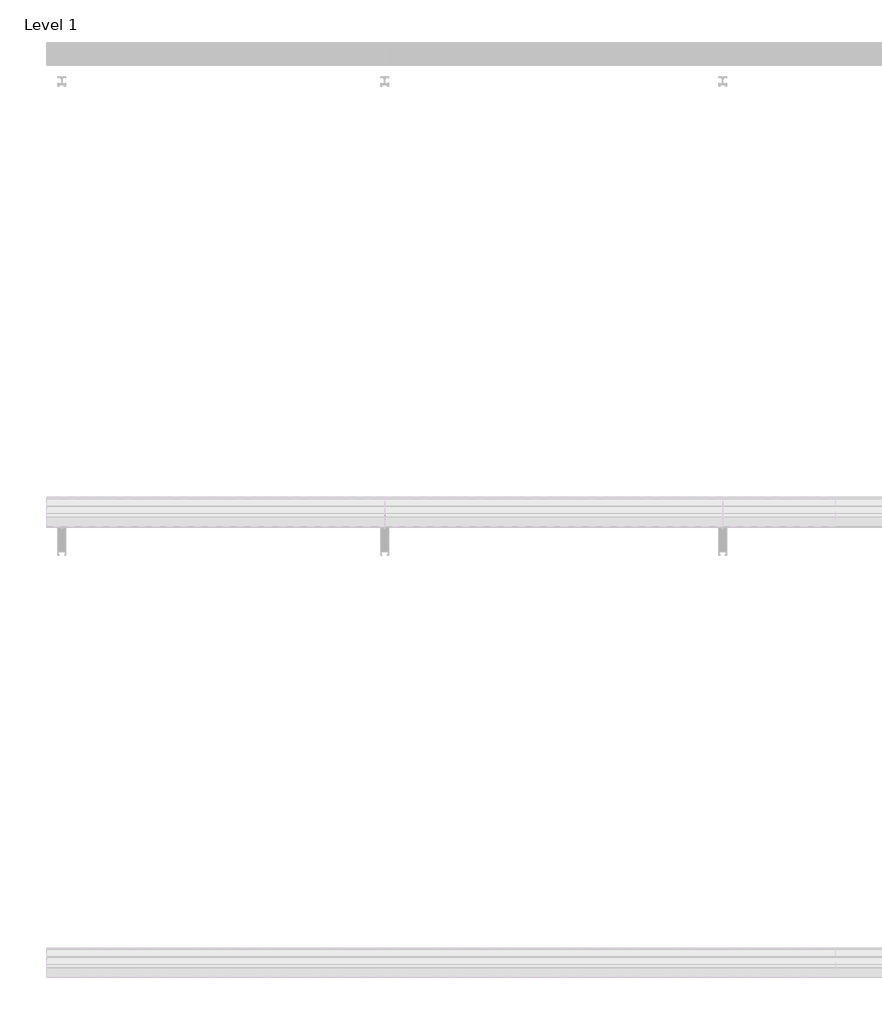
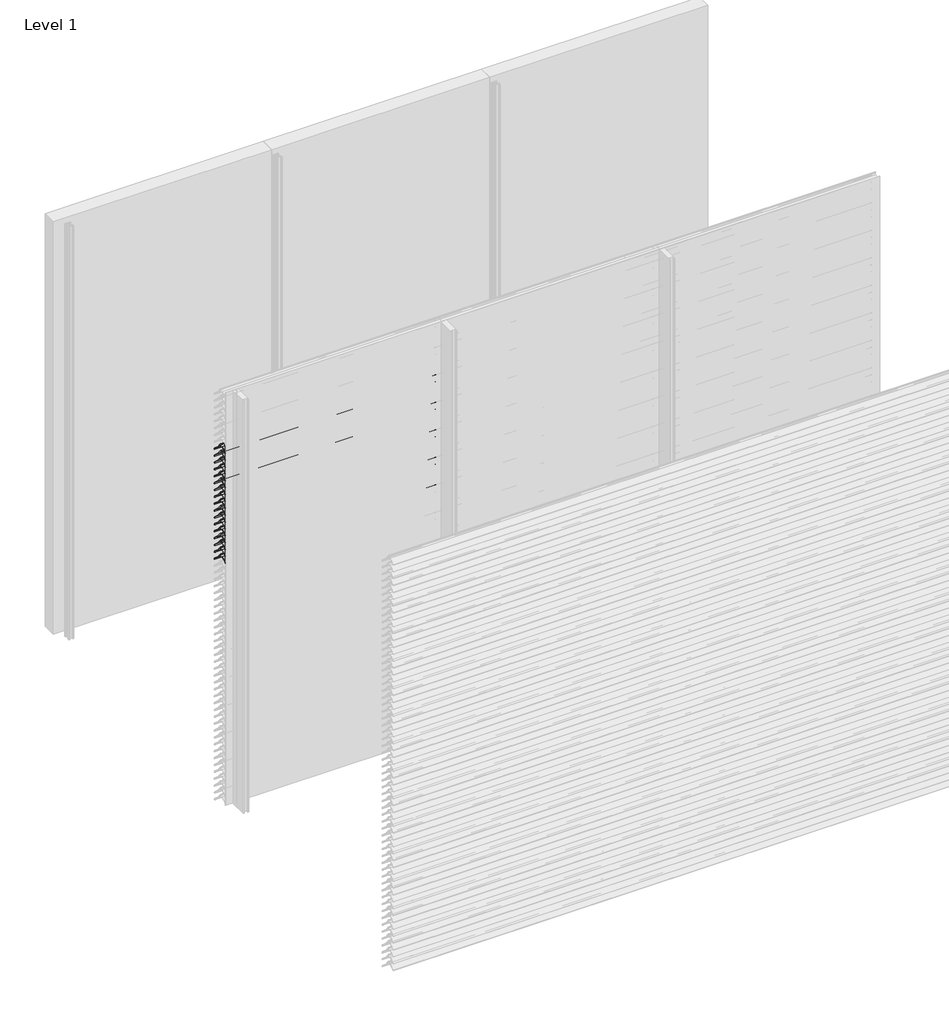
# One storey, part 24 of 173: 17 proxies.
"""IFC4 building model written with IfcOpenShell, lengths in millimetres."""

from ifc_helpers import new_model, si_unit, point, frame, frame_2d, origin, place, context, project, spatial, polyline, circle_curve, trimmed, segment, composite_curve, outline, extrude, element, save

model = new_model("IFC4")

# Units and contexts
model_context = context("Model", 3, world=origin())
ifc_project = project(units=[si_unit("LENGTHUNIT", "METRE", prefix="MILLI")], contexts=[model_context])

# Site, building, storey
site = spatial("IfcSite", under=ifc_project)
building = spatial("IfcBuilding", under=site)
storey = spatial("IfcBuildingStorey", under=building, Name="Level 1", Elevation=0.0)

# Proxies
placement = place(None, origin())
element("IfcBuildingElementProxy", 1, Name="Wall Sweeps", at=placement, inside=storey, context=model_context, shape_type="SweptSolid", body=[
    extrude(outline(composite_curve([segment(polyline([(-47998.0, 2559.1474905), (-47998.0, 2561.6227417)]), True, "CONTINUOUS"), segment(trimmed(circle_curve(frame_2d((-47951.2682172, 2516.2200208)), 65.1557103), [point((-47998.0, 2561.6227417))], [point((-47954.4014323, 2581.3003524))], False, "CARTESIAN"), True, "CONTINUOUS"), segment(polyline([(-47954.4014323, 2581.3003524), (-47934.8315836, 2581.3003524)]), True, "CONTINUOUS"), segment(trimmed(circle_curve(frame_2d((-47732.7329489, 2728.5533172)), 250.0545817), [point((-47934.8315836, 2581.3003524))], [point((-47941.4452143, 2590.8344583))], False, "CARTESIAN"), True, "CONTINUOUS"), segment(trimmed(circle_curve(frame_2d((-47953.2981792, 2585.1737835)), 13.1352966), [point((-47941.4452143, 2590.8344583))], [point((-47953.8171475, 2598.298824))], True, "CARTESIAN"), True, "CONTINUOUS"), segment(polyline([(-47953.8171475, 2598.298824), (-47953.8171475, 2600.0)]), True, "CONTINUOUS"), segment(trimmed(circle_curve(frame_2d((-47953.2981792, 2585.1737835)), 14.8352966), [point((-47953.8171475, 2600.0))], [point((-47939.9637661, 2591.6760487))], False, "CARTESIAN"), True, "CONTINUOUS"), segment(trimmed(circle_curve(frame_2d((-47732.7329489, 2728.5533172)), 248.3545817), [point((-47939.9637661, 2591.6760487))], [point((-47873.8787895, 2524.2059416))], True, "CARTESIAN"), True, "CONTINUOUS"), segment(trimmed(circle_curve(frame_2d((-47883.8147537, 2511.6649442)), 16.0), [point((-47873.8787895, 2524.2059416))], [point((-47867.8648347, 2510.4))], False, "CARTESIAN"), True, "CONTINUOUS"), segment(polyline([(-47867.8648347, 2510.4), (-47869.6712069, 2510.4)]), True, "CONTINUOUS"), segment(trimmed(circle_curve(frame_2d((-47883.8147537, 2511.6649442)), 14.2), [point((-47869.6712069, 2510.4))], [point((-47874.9518628, 2522.7594998))], True, "CARTESIAN"), True, "CONTINUOUS"), segment(trimmed(circle_curve(frame_2d((-47732.7329489, 2728.5533172)), 250.1545817), [point((-47874.9518628, 2522.7594998))], [point((-47933.7064024, 2579.6003524))], False, "CARTESIAN"), True, "CONTINUOUS"), segment(polyline([(-47933.7064024, 2579.6003524), (-47954.3602632, 2579.6003524)]), True, "CONTINUOUS"), segment(trimmed(circle_curve(frame_2d((-47951.2682172, 2516.2200208)), 63.4557103), [point((-47954.3602632, 2579.6003524))], [point((-47998.0, 2559.1474905))], True, "CARTESIAN"), True, "CONTINUOUS")], self_intersect=False)), frame((0.0, 0.0, 0.0), z_axis=(1.0, 0.0, 0.0), x_axis=(0.0, 1.0, 0.0)), (0.0, 0.0, 1.0), 1500.0),
])
element("IfcBuildingElementProxy", 2, Name="Wall Sweeps", at=placement, inside=storey, context=model_context, shape_type="SweptSolid", body=[
    extrude(outline(composite_curve([segment(polyline([(-47998.0, 2509.1474905), (-47998.0, 2511.6227417)]), True, "CONTINUOUS"), segment(trimmed(circle_curve(frame_2d((-47951.2682172, 2466.2200208)), 65.1557103), [point((-47998.0, 2511.6227417))], [point((-47954.4014323, 2531.3003524))], False, "CARTESIAN"), True, "CONTINUOUS"), segment(polyline([(-47954.4014323, 2531.3003524), (-47934.8315836, 2531.3003524)]), True, "CONTINUOUS"), segment(trimmed(circle_curve(frame_2d((-47732.7329489, 2678.5533172)), 250.0545817), [point((-47934.8315836, 2531.3003524))], [point((-47941.4452143, 2540.8344583))], False, "CARTESIAN"), True, "CONTINUOUS"), segment(trimmed(circle_curve(frame_2d((-47953.2981792, 2535.1737835)), 13.1352966), [point((-47941.4452143, 2540.8344583))], [point((-47953.8171475, 2548.298824))], True, "CARTESIAN"), True, "CONTINUOUS"), segment(polyline([(-47953.8171475, 2548.298824), (-47953.8171475, 2550.0)]), True, "CONTINUOUS"), segment(trimmed(circle_curve(frame_2d((-47953.2981792, 2535.1737835)), 14.8352966), [point((-47953.8171475, 2550.0))], [point((-47939.9637661, 2541.6760487))], False, "CARTESIAN"), True, "CONTINUOUS"), segment(trimmed(circle_curve(frame_2d((-47732.7329489, 2678.5533172)), 248.3545817), [point((-47939.9637661, 2541.6760487))], [point((-47873.8787895, 2474.2059416))], True, "CARTESIAN"), True, "CONTINUOUS"), segment(trimmed(circle_curve(frame_2d((-47883.8147537, 2461.6649442)), 16.0), [point((-47873.8787895, 2474.2059416))], [point((-47867.8648347, 2460.4))], False, "CARTESIAN"), True, "CONTINUOUS"), segment(polyline([(-47867.8648347, 2460.4), (-47869.6712069, 2460.4)]), True, "CONTINUOUS"), segment(trimmed(circle_curve(frame_2d((-47883.8147537, 2461.6649442)), 14.2), [point((-47869.6712069, 2460.4))], [point((-47874.9518628, 2472.7594998))], True, "CARTESIAN"), True, "CONTINUOUS"), segment(trimmed(circle_curve(frame_2d((-47732.7329489, 2678.5533172)), 250.1545817), [point((-47874.9518628, 2472.7594998))], [point((-47933.7064024, 2529.6003524))], False, "CARTESIAN"), True, "CONTINUOUS"), segment(polyline([(-47933.7064024, 2529.6003524), (-47954.3602632, 2529.6003524)]), True, "CONTINUOUS"), segment(trimmed(circle_curve(frame_2d((-47951.2682172, 2466.2200208)), 63.4557103), [point((-47954.3602632, 2529.6003524))], [point((-47998.0, 2509.1474905))], True, "CARTESIAN"), True, "CONTINUOUS")], self_intersect=False)), frame((0.0, 0.0, 0.0), z_axis=(1.0, 0.0, 0.0), x_axis=(0.0, 1.0, 0.0)), (0.0, 0.0, 1.0), 1500.0),
])
element("IfcBuildingElementProxy", 3, Name="Wall Sweeps", at=placement, inside=storey, context=model_context, shape_type="SweptSolid", body=[
    extrude(outline(composite_curve([segment(polyline([(-47998.0, 2459.1474905), (-47998.0, 2461.6227417)]), True, "CONTINUOUS"), segment(trimmed(circle_curve(frame_2d((-47951.2682172, 2416.2200208)), 65.1557103), [point((-47998.0, 2461.6227417))], [point((-47954.4014323, 2481.3003524))], False, "CARTESIAN"), True, "CONTINUOUS"), segment(polyline([(-47954.4014323, 2481.3003524), (-47934.8315836, 2481.3003524)]), True, "CONTINUOUS"), segment(trimmed(circle_curve(frame_2d((-47732.7329489, 2628.5533172)), 250.0545817), [point((-47934.8315836, 2481.3003524))], [point((-47941.4452143, 2490.8344583))], False, "CARTESIAN"), True, "CONTINUOUS"), segment(trimmed(circle_curve(frame_2d((-47953.2981792, 2485.1737835)), 13.1352966), [point((-47941.4452143, 2490.8344583))], [point((-47953.8171475, 2498.298824))], True, "CARTESIAN"), True, "CONTINUOUS"), segment(polyline([(-47953.8171475, 2498.298824), (-47953.8171475, 2500.0)]), True, "CONTINUOUS"), segment(trimmed(circle_curve(frame_2d((-47953.2981792, 2485.1737835)), 14.8352966), [point((-47953.8171475, 2500.0))], [point((-47939.9637661, 2491.6760487))], False, "CARTESIAN"), True, "CONTINUOUS"), segment(trimmed(circle_curve(frame_2d((-47732.7329489, 2628.5533172)), 248.3545817), [point((-47939.9637661, 2491.6760487))], [point((-47873.8787895, 2424.2059416))], True, "CARTESIAN"), True, "CONTINUOUS"), segment(trimmed(circle_curve(frame_2d((-47883.8147537, 2411.6649442)), 16.0), [point((-47873.8787895, 2424.2059416))], [point((-47867.8648347, 2410.4))], False, "CARTESIAN"), True, "CONTINUOUS"), segment(polyline([(-47867.8648347, 2410.4), (-47869.6712069, 2410.4)]), True, "CONTINUOUS"), segment(trimmed(circle_curve(frame_2d((-47883.8147537, 2411.6649442)), 14.2), [point((-47869.6712069, 2410.4))], [point((-47874.9518628, 2422.7594998))], True, "CARTESIAN"), True, "CONTINUOUS"), segment(trimmed(circle_curve(frame_2d((-47732.7329489, 2628.5533172)), 250.1545817), [point((-47874.9518628, 2422.7594998))], [point((-47933.7064024, 2479.6003524))], False, "CARTESIAN"), True, "CONTINUOUS"), segment(polyline([(-47933.7064024, 2479.6003524), (-47954.3602632, 2479.6003524)]), True, "CONTINUOUS"), segment(trimmed(circle_curve(frame_2d((-47951.2682172, 2416.2200208)), 63.4557103), [point((-47954.3602632, 2479.6003524))], [point((-47998.0, 2459.1474905))], True, "CARTESIAN"), True, "CONTINUOUS")], self_intersect=False)), frame((0.0, 0.0, 0.0), z_axis=(1.0, 0.0, 0.0), x_axis=(0.0, 1.0, 0.0)), (0.0, 0.0, 1.0), 1500.0),
])
element("IfcBuildingElementProxy", 4, Name="Wall Sweeps", at=placement, inside=storey, context=model_context, shape_type="SweptSolid", body=[
    extrude(outline(composite_curve([segment(polyline([(-47998.0, 2409.1474905), (-47998.0, 2411.6227417)]), True, "CONTINUOUS"), segment(trimmed(circle_curve(frame_2d((-47951.2682172, 2366.2200208)), 65.1557103), [point((-47998.0, 2411.6227417))], [point((-47954.4014323, 2431.3003524))], False, "CARTESIAN"), True, "CONTINUOUS"), segment(polyline([(-47954.4014323, 2431.3003524), (-47934.8315836, 2431.3003524)]), True, "CONTINUOUS"), segment(trimmed(circle_curve(frame_2d((-47732.7329489, 2578.5533172)), 250.0545817), [point((-47934.8315836, 2431.3003524))], [point((-47941.4452143, 2440.8344583))], False, "CARTESIAN"), True, "CONTINUOUS"), segment(trimmed(circle_curve(frame_2d((-47953.2981792, 2435.1737835)), 13.1352966), [point((-47941.4452143, 2440.8344583))], [point((-47953.8171475, 2448.298824))], True, "CARTESIAN"), True, "CONTINUOUS"), segment(polyline([(-47953.8171475, 2448.298824), (-47953.8171475, 2450.0)]), True, "CONTINUOUS"), segment(trimmed(circle_curve(frame_2d((-47953.2981792, 2435.1737835)), 14.8352966), [point((-47953.8171475, 2450.0))], [point((-47939.9637661, 2441.6760487))], False, "CARTESIAN"), True, "CONTINUOUS"), segment(trimmed(circle_curve(frame_2d((-47732.7329489, 2578.5533172)), 248.3545817), [point((-47939.9637661, 2441.6760487))], [point((-47873.8787895, 2374.2059416))], True, "CARTESIAN"), True, "CONTINUOUS"), segment(trimmed(circle_curve(frame_2d((-47883.8147537, 2361.6649442)), 16.0), [point((-47873.8787895, 2374.2059416))], [point((-47867.8648347, 2360.4))], False, "CARTESIAN"), True, "CONTINUOUS"), segment(polyline([(-47867.8648347, 2360.4), (-47869.6712069, 2360.4)]), True, "CONTINUOUS"), segment(trimmed(circle_curve(frame_2d((-47883.8147537, 2361.6649442)), 14.2), [point((-47869.6712069, 2360.4))], [point((-47874.9518628, 2372.7594998))], True, "CARTESIAN"), True, "CONTINUOUS"), segment(trimmed(circle_curve(frame_2d((-47732.7329489, 2578.5533172)), 250.1545817), [point((-47874.9518628, 2372.7594998))], [point((-47933.7064024, 2429.6003524))], False, "CARTESIAN"), True, "CONTINUOUS"), segment(polyline([(-47933.7064024, 2429.6003524), (-47954.3602632, 2429.6003524)]), True, "CONTINUOUS"), segment(trimmed(circle_curve(frame_2d((-47951.2682172, 2366.2200208)), 63.4557103), [point((-47954.3602632, 2429.6003524))], [point((-47998.0, 2409.1474905))], True, "CARTESIAN"), True, "CONTINUOUS")], self_intersect=False)), frame((0.0, 0.0, 0.0), z_axis=(1.0, 0.0, 0.0), x_axis=(0.0, 1.0, 0.0)), (0.0, 0.0, 1.0), 1500.0),
])
element("IfcBuildingElementProxy", 5, Name="Wall Sweeps", at=placement, inside=storey, context=model_context, shape_type="SweptSolid", body=[
    extrude(outline(composite_curve([segment(polyline([(-47998.0, 2359.1474905), (-47998.0, 2361.6227417)]), True, "CONTINUOUS"), segment(trimmed(circle_curve(frame_2d((-47951.2682172, 2316.2200208)), 65.1557103), [point((-47998.0, 2361.6227417))], [point((-47954.4014323, 2381.3003524))], False, "CARTESIAN"), True, "CONTINUOUS"), segment(polyline([(-47954.4014323, 2381.3003524), (-47934.8315836, 2381.3003524)]), True, "CONTINUOUS"), segment(trimmed(circle_curve(frame_2d((-47732.7329489, 2528.5533172)), 250.0545817), [point((-47934.8315836, 2381.3003524))], [point((-47941.4452143, 2390.8344583))], False, "CARTESIAN"), True, "CONTINUOUS"), segment(trimmed(circle_curve(frame_2d((-47953.2981792, 2385.1737835)), 13.1352966), [point((-47941.4452143, 2390.8344583))], [point((-47953.8171475, 2398.298824))], True, "CARTESIAN"), True, "CONTINUOUS"), segment(polyline([(-47953.8171475, 2398.298824), (-47953.8171475, 2400.0)]), True, "CONTINUOUS"), segment(trimmed(circle_curve(frame_2d((-47953.2981792, 2385.1737835)), 14.8352966), [point((-47953.8171475, 2400.0))], [point((-47939.9637661, 2391.6760487))], False, "CARTESIAN"), True, "CONTINUOUS"), segment(trimmed(circle_curve(frame_2d((-47732.7329489, 2528.5533172)), 248.3545817), [point((-47939.9637661, 2391.6760487))], [point((-47873.8787895, 2324.2059416))], True, "CARTESIAN"), True, "CONTINUOUS"), segment(trimmed(circle_curve(frame_2d((-47883.8147537, 2311.6649442)), 16.0), [point((-47873.8787895, 2324.2059416))], [point((-47867.8648347, 2310.4))], False, "CARTESIAN"), True, "CONTINUOUS"), segment(polyline([(-47867.8648347, 2310.4), (-47869.6712069, 2310.4)]), True, "CONTINUOUS"), segment(trimmed(circle_curve(frame_2d((-47883.8147537, 2311.6649442)), 14.2), [point((-47869.6712069, 2310.4))], [point((-47874.9518628, 2322.7594998))], True, "CARTESIAN"), True, "CONTINUOUS"), segment(trimmed(circle_curve(frame_2d((-47732.7329489, 2528.5533172)), 250.1545817), [point((-47874.9518628, 2322.7594998))], [point((-47933.7064024, 2379.6003524))], False, "CARTESIAN"), True, "CONTINUOUS"), segment(polyline([(-47933.7064024, 2379.6003524), (-47954.3602632, 2379.6003524)]), True, "CONTINUOUS"), segment(trimmed(circle_curve(frame_2d((-47951.2682172, 2316.2200208)), 63.4557103), [point((-47954.3602632, 2379.6003524))], [point((-47998.0, 2359.1474905))], True, "CARTESIAN"), True, "CONTINUOUS")], self_intersect=False)), frame((0.0, 0.0, 0.0), z_axis=(1.0, 0.0, 0.0), x_axis=(0.0, 1.0, 0.0)), (0.0, 0.0, 1.0), 1500.0),
])
element("IfcBuildingElementProxy", 6, Name="Wall Sweeps", at=placement, inside=storey, context=model_context, shape_type="SweptSolid", body=[
    extrude(outline(composite_curve([segment(polyline([(-47998.0, 2309.1474905), (-47998.0, 2311.6227417)]), True, "CONTINUOUS"), segment(trimmed(circle_curve(frame_2d((-47951.2682172, 2266.2200208)), 65.1557103), [point((-47998.0, 2311.6227417))], [point((-47954.4014323, 2331.3003524))], False, "CARTESIAN"), True, "CONTINUOUS"), segment(polyline([(-47954.4014323, 2331.3003524), (-47934.8315836, 2331.3003524)]), True, "CONTINUOUS"), segment(trimmed(circle_curve(frame_2d((-47732.7329489, 2478.5533172)), 250.0545817), [point((-47934.8315836, 2331.3003524))], [point((-47941.4452143, 2340.8344583))], False, "CARTESIAN"), True, "CONTINUOUS"), segment(trimmed(circle_curve(frame_2d((-47953.2981792, 2335.1737835)), 13.1352966), [point((-47941.4452143, 2340.8344583))], [point((-47953.8171475, 2348.298824))], True, "CARTESIAN"), True, "CONTINUOUS"), segment(polyline([(-47953.8171475, 2348.298824), (-47953.8171475, 2350.0)]), True, "CONTINUOUS"), segment(trimmed(circle_curve(frame_2d((-47953.2981792, 2335.1737835)), 14.8352966), [point((-47953.8171475, 2350.0))], [point((-47939.9637661, 2341.6760487))], False, "CARTESIAN"), True, "CONTINUOUS"), segment(trimmed(circle_curve(frame_2d((-47732.7329489, 2478.5533172)), 248.3545817), [point((-47939.9637661, 2341.6760487))], [point((-47873.8787895, 2274.2059416))], True, "CARTESIAN"), True, "CONTINUOUS"), segment(trimmed(circle_curve(frame_2d((-47883.8147537, 2261.6649442)), 16.0), [point((-47873.8787895, 2274.2059416))], [point((-47867.8648347, 2260.4))], False, "CARTESIAN"), True, "CONTINUOUS"), segment(polyline([(-47867.8648347, 2260.4), (-47869.6712069, 2260.4)]), True, "CONTINUOUS"), segment(trimmed(circle_curve(frame_2d((-47883.8147537, 2261.6649442)), 14.2), [point((-47869.6712069, 2260.4))], [point((-47874.9518628, 2272.7594998))], True, "CARTESIAN"), True, "CONTINUOUS"), segment(trimmed(circle_curve(frame_2d((-47732.7329489, 2478.5533172)), 250.1545817), [point((-47874.9518628, 2272.7594998))], [point((-47933.7064024, 2329.6003524))], False, "CARTESIAN"), True, "CONTINUOUS"), segment(polyline([(-47933.7064024, 2329.6003524), (-47954.3602632, 2329.6003524)]), True, "CONTINUOUS"), segment(trimmed(circle_curve(frame_2d((-47951.2682172, 2266.2200208)), 63.4557103), [point((-47954.3602632, 2329.6003524))], [point((-47998.0, 2309.1474905))], True, "CARTESIAN"), True, "CONTINUOUS")], self_intersect=False)), frame((0.0, 0.0, 0.0), z_axis=(1.0, 0.0, 0.0), x_axis=(0.0, 1.0, 0.0)), (0.0, 0.0, 1.0), 1500.0),
])
element("IfcBuildingElementProxy", 7, Name="Wall Sweeps", at=placement, inside=storey, context=model_context, shape_type="SweptSolid", body=[
    extrude(outline(composite_curve([segment(polyline([(-47998.0, 2259.1474905), (-47998.0, 2261.6227417)]), True, "CONTINUOUS"), segment(trimmed(circle_curve(frame_2d((-47951.2682172, 2216.2200208)), 65.1557103), [point((-47998.0, 2261.6227417))], [point((-47954.4014323, 2281.3003524))], False, "CARTESIAN"), True, "CONTINUOUS"), segment(polyline([(-47954.4014323, 2281.3003524), (-47934.8315836, 2281.3003524)]), True, "CONTINUOUS"), segment(trimmed(circle_curve(frame_2d((-47732.7329489, 2428.5533172)), 250.0545817), [point((-47934.8315836, 2281.3003524))], [point((-47941.4452143, 2290.8344583))], False, "CARTESIAN"), True, "CONTINUOUS"), segment(trimmed(circle_curve(frame_2d((-47953.2981792, 2285.1737835)), 13.1352966), [point((-47941.4452143, 2290.8344583))], [point((-47953.8171475, 2298.298824))], True, "CARTESIAN"), True, "CONTINUOUS"), segment(polyline([(-47953.8171475, 2298.298824), (-47953.8171475, 2300.0)]), True, "CONTINUOUS"), segment(trimmed(circle_curve(frame_2d((-47953.2981792, 2285.1737835)), 14.8352966), [point((-47953.8171475, 2300.0))], [point((-47939.9637661, 2291.6760487))], False, "CARTESIAN"), True, "CONTINUOUS"), segment(trimmed(circle_curve(frame_2d((-47732.7329489, 2428.5533172)), 248.3545817), [point((-47939.9637661, 2291.6760487))], [point((-47873.8787895, 2224.2059416))], True, "CARTESIAN"), True, "CONTINUOUS"), segment(trimmed(circle_curve(frame_2d((-47883.8147537, 2211.6649442)), 16.0), [point((-47873.8787895, 2224.2059416))], [point((-47867.8648347, 2210.4))], False, "CARTESIAN"), True, "CONTINUOUS"), segment(polyline([(-47867.8648347, 2210.4), (-47869.6712069, 2210.4)]), True, "CONTINUOUS"), segment(trimmed(circle_curve(frame_2d((-47883.8147537, 2211.6649442)), 14.2), [point((-47869.6712069, 2210.4))], [point((-47874.9518628, 2222.7594998))], True, "CARTESIAN"), True, "CONTINUOUS"), segment(trimmed(circle_curve(frame_2d((-47732.7329489, 2428.5533172)), 250.1545817), [point((-47874.9518628, 2222.7594998))], [point((-47933.7064024, 2279.6003524))], False, "CARTESIAN"), True, "CONTINUOUS"), segment(polyline([(-47933.7064024, 2279.6003524), (-47954.3602632, 2279.6003524)]), True, "CONTINUOUS"), segment(trimmed(circle_curve(frame_2d((-47951.2682172, 2216.2200208)), 63.4557103), [point((-47954.3602632, 2279.6003524))], [point((-47998.0, 2259.1474905))], True, "CARTESIAN"), True, "CONTINUOUS")], self_intersect=False)), frame((0.0, 0.0, 0.0), z_axis=(1.0, 0.0, 0.0), x_axis=(0.0, 1.0, 0.0)), (0.0, 0.0, 1.0), 1500.0),
])
element("IfcBuildingElementProxy", 8, Name="Wall Sweeps", at=placement, inside=storey, context=model_context, shape_type="SweptSolid", body=[
    extrude(outline(composite_curve([segment(polyline([(-47998.0, 2209.1474905), (-47998.0, 2211.6227417)]), True, "CONTINUOUS"), segment(trimmed(circle_curve(frame_2d((-47951.2682172, 2166.2200208)), 65.1557103), [point((-47998.0, 2211.6227417))], [point((-47954.4014323, 2231.3003524))], False, "CARTESIAN"), True, "CONTINUOUS"), segment(polyline([(-47954.4014323, 2231.3003524), (-47934.8315836, 2231.3003524)]), True, "CONTINUOUS"), segment(trimmed(circle_curve(frame_2d((-47732.7329489, 2378.5533172)), 250.0545817), [point((-47934.8315836, 2231.3003524))], [point((-47941.4452143, 2240.8344583))], False, "CARTESIAN"), True, "CONTINUOUS"), segment(trimmed(circle_curve(frame_2d((-47953.2981792, 2235.1737835)), 13.1352966), [point((-47941.4452143, 2240.8344583))], [point((-47953.8171475, 2248.298824))], True, "CARTESIAN"), True, "CONTINUOUS"), segment(polyline([(-47953.8171475, 2248.298824), (-47953.8171475, 2250.0)]), True, "CONTINUOUS"), segment(trimmed(circle_curve(frame_2d((-47953.2981792, 2235.1737835)), 14.8352966), [point((-47953.8171475, 2250.0))], [point((-47939.9637661, 2241.6760487))], False, "CARTESIAN"), True, "CONTINUOUS"), segment(trimmed(circle_curve(frame_2d((-47732.7329489, 2378.5533172)), 248.3545817), [point((-47939.9637661, 2241.6760487))], [point((-47873.8787895, 2174.2059416))], True, "CARTESIAN"), True, "CONTINUOUS"), segment(trimmed(circle_curve(frame_2d((-47883.8147537, 2161.6649442)), 16.0), [point((-47873.8787895, 2174.2059416))], [point((-47867.8648347, 2160.4))], False, "CARTESIAN"), True, "CONTINUOUS"), segment(polyline([(-47867.8648347, 2160.4), (-47869.6712069, 2160.4)]), True, "CONTINUOUS"), segment(trimmed(circle_curve(frame_2d((-47883.8147537, 2161.6649442)), 14.2), [point((-47869.6712069, 2160.4))], [point((-47874.9518628, 2172.7594998))], True, "CARTESIAN"), True, "CONTINUOUS"), segment(trimmed(circle_curve(frame_2d((-47732.7329489, 2378.5533172)), 250.1545817), [point((-47874.9518628, 2172.7594998))], [point((-47933.7064024, 2229.6003524))], False, "CARTESIAN"), True, "CONTINUOUS"), segment(polyline([(-47933.7064024, 2229.6003524), (-47954.3602632, 2229.6003524)]), True, "CONTINUOUS"), segment(trimmed(circle_curve(frame_2d((-47951.2682172, 2166.2200208)), 63.4557103), [point((-47954.3602632, 2229.6003524))], [point((-47998.0, 2209.1474905))], True, "CARTESIAN"), True, "CONTINUOUS")], self_intersect=False)), frame((0.0, 0.0, 0.0), z_axis=(1.0, 0.0, 0.0), x_axis=(0.0, 1.0, 0.0)), (0.0, 0.0, 1.0), 1500.0),
])
element("IfcBuildingElementProxy", 9, Name="Wall Sweeps", at=placement, inside=storey, context=model_context, shape_type="SweptSolid", body=[
    extrude(outline(composite_curve([segment(polyline([(-47998.0, 2159.1474905), (-47998.0, 2161.6227417)]), True, "CONTINUOUS"), segment(trimmed(circle_curve(frame_2d((-47951.2682172, 2116.2200208)), 65.1557103), [point((-47998.0, 2161.6227417))], [point((-47954.4014323, 2181.3003524))], False, "CARTESIAN"), True, "CONTINUOUS"), segment(polyline([(-47954.4014323, 2181.3003524), (-47934.8315836, 2181.3003524)]), True, "CONTINUOUS"), segment(trimmed(circle_curve(frame_2d((-47732.7329489, 2328.5533172)), 250.0545817), [point((-47934.8315836, 2181.3003524))], [point((-47941.4452143, 2190.8344583))], False, "CARTESIAN"), True, "CONTINUOUS"), segment(trimmed(circle_curve(frame_2d((-47953.2981792, 2185.1737835)), 13.1352966), [point((-47941.4452143, 2190.8344583))], [point((-47953.8171475, 2198.298824))], True, "CARTESIAN"), True, "CONTINUOUS"), segment(polyline([(-47953.8171475, 2198.298824), (-47953.8171475, 2200.0)]), True, "CONTINUOUS"), segment(trimmed(circle_curve(frame_2d((-47953.2981792, 2185.1737835)), 14.8352966), [point((-47953.8171475, 2200.0))], [point((-47939.9637661, 2191.6760487))], False, "CARTESIAN"), True, "CONTINUOUS"), segment(trimmed(circle_curve(frame_2d((-47732.7329489, 2328.5533172)), 248.3545817), [point((-47939.9637661, 2191.6760487))], [point((-47873.8787895, 2124.2059416))], True, "CARTESIAN"), True, "CONTINUOUS"), segment(trimmed(circle_curve(frame_2d((-47883.8147537, 2111.6649442)), 16.0), [point((-47873.8787895, 2124.2059416))], [point((-47867.8648347, 2110.4))], False, "CARTESIAN"), True, "CONTINUOUS"), segment(polyline([(-47867.8648347, 2110.4), (-47869.6712069, 2110.4)]), True, "CONTINUOUS"), segment(trimmed(circle_curve(frame_2d((-47883.8147537, 2111.6649442)), 14.2), [point((-47869.6712069, 2110.4))], [point((-47874.9518628, 2122.7594998))], True, "CARTESIAN"), True, "CONTINUOUS"), segment(trimmed(circle_curve(frame_2d((-47732.7329489, 2328.5533172)), 250.1545817), [point((-47874.9518628, 2122.7594998))], [point((-47933.7064024, 2179.6003524))], False, "CARTESIAN"), True, "CONTINUOUS"), segment(polyline([(-47933.7064024, 2179.6003524), (-47954.3602632, 2179.6003524)]), True, "CONTINUOUS"), segment(trimmed(circle_curve(frame_2d((-47951.2682172, 2116.2200208)), 63.4557103), [point((-47954.3602632, 2179.6003524))], [point((-47998.0, 2159.1474905))], True, "CARTESIAN"), True, "CONTINUOUS")], self_intersect=False)), frame((0.0, 0.0, 0.0), z_axis=(1.0, 0.0, 0.0), x_axis=(0.0, 1.0, 0.0)), (0.0, 0.0, 1.0), 1500.0),
])
element("IfcBuildingElementProxy", 10, Name="Wall Sweeps", at=placement, inside=storey, context=model_context, shape_type="SweptSolid", body=[
    extrude(outline(composite_curve([segment(polyline([(-47998.0, 2109.1474905), (-47998.0, 2111.6227417)]), True, "CONTINUOUS"), segment(trimmed(circle_curve(frame_2d((-47951.2682172, 2066.2200208)), 65.1557103), [point((-47998.0, 2111.6227417))], [point((-47954.4014323, 2131.3003524))], False, "CARTESIAN"), True, "CONTINUOUS"), segment(polyline([(-47954.4014323, 2131.3003524), (-47934.8315836, 2131.3003524)]), True, "CONTINUOUS"), segment(trimmed(circle_curve(frame_2d((-47732.7329489, 2278.5533172)), 250.0545817), [point((-47934.8315836, 2131.3003524))], [point((-47941.4452143, 2140.8344583))], False, "CARTESIAN"), True, "CONTINUOUS"), segment(trimmed(circle_curve(frame_2d((-47953.2981792, 2135.1737835)), 13.1352966), [point((-47941.4452143, 2140.8344583))], [point((-47953.8171475, 2148.298824))], True, "CARTESIAN"), True, "CONTINUOUS"), segment(polyline([(-47953.8171475, 2148.298824), (-47953.8171475, 2150.0)]), True, "CONTINUOUS"), segment(trimmed(circle_curve(frame_2d((-47953.2981792, 2135.1737835)), 14.8352966), [point((-47953.8171475, 2150.0))], [point((-47939.9637661, 2141.6760487))], False, "CARTESIAN"), True, "CONTINUOUS"), segment(trimmed(circle_curve(frame_2d((-47732.7329489, 2278.5533172)), 248.3545817), [point((-47939.9637661, 2141.6760487))], [point((-47873.8787895, 2074.2059416))], True, "CARTESIAN"), True, "CONTINUOUS"), segment(trimmed(circle_curve(frame_2d((-47883.8147537, 2061.6649442)), 16.0), [point((-47873.8787895, 2074.2059416))], [point((-47867.8648347, 2060.4))], False, "CARTESIAN"), True, "CONTINUOUS"), segment(polyline([(-47867.8648347, 2060.4), (-47869.6712069, 2060.4)]), True, "CONTINUOUS"), segment(trimmed(circle_curve(frame_2d((-47883.8147537, 2061.6649442)), 14.2), [point((-47869.6712069, 2060.4))], [point((-47874.9518628, 2072.7594998))], True, "CARTESIAN"), True, "CONTINUOUS"), segment(trimmed(circle_curve(frame_2d((-47732.7329489, 2278.5533172)), 250.1545817), [point((-47874.9518628, 2072.7594998))], [point((-47933.7064024, 2129.6003524))], False, "CARTESIAN"), True, "CONTINUOUS"), segment(polyline([(-47933.7064024, 2129.6003524), (-47954.3602632, 2129.6003524)]), True, "CONTINUOUS"), segment(trimmed(circle_curve(frame_2d((-47951.2682172, 2066.2200208)), 63.4557103), [point((-47954.3602632, 2129.6003524))], [point((-47998.0, 2109.1474905))], True, "CARTESIAN"), True, "CONTINUOUS")], self_intersect=False)), frame((0.0, 0.0, 0.0), z_axis=(1.0, 0.0, 0.0), x_axis=(0.0, 1.0, 0.0)), (0.0, 0.0, 1.0), 1500.0),
])
element("IfcBuildingElementProxy", 11, Name="Wall Sweeps", at=placement, inside=storey, context=model_context, shape_type="SweptSolid", body=[
    extrude(outline(composite_curve([segment(polyline([(-47998.0, 2059.1474905), (-47998.0, 2061.6227417)]), True, "CONTINUOUS"), segment(trimmed(circle_curve(frame_2d((-47951.2682172, 2016.2200208)), 65.1557103), [point((-47998.0, 2061.6227417))], [point((-47954.4014323, 2081.3003524))], False, "CARTESIAN"), True, "CONTINUOUS"), segment(polyline([(-47954.4014323, 2081.3003524), (-47934.8315836, 2081.3003524)]), True, "CONTINUOUS"), segment(trimmed(circle_curve(frame_2d((-47732.7329489, 2228.5533172)), 250.0545817), [point((-47934.8315836, 2081.3003524))], [point((-47941.4452143, 2090.8344583))], False, "CARTESIAN"), True, "CONTINUOUS"), segment(trimmed(circle_curve(frame_2d((-47953.2981792, 2085.1737835)), 13.1352966), [point((-47941.4452143, 2090.8344583))], [point((-47953.8171475, 2098.298824))], True, "CARTESIAN"), True, "CONTINUOUS"), segment(polyline([(-47953.8171475, 2098.298824), (-47953.8171475, 2100.0)]), True, "CONTINUOUS"), segment(trimmed(circle_curve(frame_2d((-47953.2981792, 2085.1737835)), 14.8352966), [point((-47953.8171475, 2100.0))], [point((-47939.9637661, 2091.6760487))], False, "CARTESIAN"), True, "CONTINUOUS"), segment(trimmed(circle_curve(frame_2d((-47732.7329489, 2228.5533172)), 248.3545817), [point((-47939.9637661, 2091.6760487))], [point((-47873.8787895, 2024.2059416))], True, "CARTESIAN"), True, "CONTINUOUS"), segment(trimmed(circle_curve(frame_2d((-47883.8147537, 2011.6649442)), 16.0), [point((-47873.8787895, 2024.2059416))], [point((-47867.8648347, 2010.4))], False, "CARTESIAN"), True, "CONTINUOUS"), segment(polyline([(-47867.8648347, 2010.4), (-47869.6712069, 2010.4)]), True, "CONTINUOUS"), segment(trimmed(circle_curve(frame_2d((-47883.8147537, 2011.6649442)), 14.2), [point((-47869.6712069, 2010.4))], [point((-47874.9518628, 2022.7594998))], True, "CARTESIAN"), True, "CONTINUOUS"), segment(trimmed(circle_curve(frame_2d((-47732.7329489, 2228.5533172)), 250.1545817), [point((-47874.9518628, 2022.7594998))], [point((-47933.7064024, 2079.6003524))], False, "CARTESIAN"), True, "CONTINUOUS"), segment(polyline([(-47933.7064024, 2079.6003524), (-47954.3602632, 2079.6003524)]), True, "CONTINUOUS"), segment(trimmed(circle_curve(frame_2d((-47951.2682172, 2016.2200208)), 63.4557103), [point((-47954.3602632, 2079.6003524))], [point((-47998.0, 2059.1474905))], True, "CARTESIAN"), True, "CONTINUOUS")], self_intersect=False)), frame((0.0, 0.0, 0.0), z_axis=(1.0, 0.0, 0.0), x_axis=(0.0, 1.0, 0.0)), (0.0, 0.0, 1.0), 1500.0),
])
element("IfcBuildingElementProxy", 12, Name="Wall Sweeps", at=placement, inside=storey, context=model_context, shape_type="SweptSolid", body=[
    extrude(outline(composite_curve([segment(polyline([(-47998.0, 2009.1474905), (-47998.0, 2011.6227417)]), True, "CONTINUOUS"), segment(trimmed(circle_curve(frame_2d((-47951.2682172, 1966.2200208)), 65.1557103), [point((-47998.0, 2011.6227417))], [point((-47954.4014323, 2031.3003524))], False, "CARTESIAN"), True, "CONTINUOUS"), segment(polyline([(-47954.4014323, 2031.3003524), (-47934.8315836, 2031.3003524)]), True, "CONTINUOUS"), segment(trimmed(circle_curve(frame_2d((-47732.7329489, 2178.5533172)), 250.0545817), [point((-47934.8315836, 2031.3003524))], [point((-47941.4452143, 2040.8344583))], False, "CARTESIAN"), True, "CONTINUOUS"), segment(trimmed(circle_curve(frame_2d((-47953.2981792, 2035.1737835)), 13.1352966), [point((-47941.4452143, 2040.8344583))], [point((-47953.8171475, 2048.298824))], True, "CARTESIAN"), True, "CONTINUOUS"), segment(polyline([(-47953.8171475, 2048.298824), (-47953.8171475, 2050.0)]), True, "CONTINUOUS"), segment(trimmed(circle_curve(frame_2d((-47953.2981792, 2035.1737835)), 14.8352966), [point((-47953.8171475, 2050.0))], [point((-47939.9637661, 2041.6760487))], False, "CARTESIAN"), True, "CONTINUOUS"), segment(trimmed(circle_curve(frame_2d((-47732.7329489, 2178.5533172)), 248.3545817), [point((-47939.9637661, 2041.6760487))], [point((-47873.8787895, 1974.2059416))], True, "CARTESIAN"), True, "CONTINUOUS"), segment(trimmed(circle_curve(frame_2d((-47883.8147537, 1961.6649442)), 16.0), [point((-47873.8787895, 1974.2059416))], [point((-47867.8648347, 1960.4))], False, "CARTESIAN"), True, "CONTINUOUS"), segment(polyline([(-47867.8648347, 1960.4), (-47869.6712069, 1960.4)]), True, "CONTINUOUS"), segment(trimmed(circle_curve(frame_2d((-47883.8147537, 1961.6649442)), 14.2), [point((-47869.6712069, 1960.4))], [point((-47874.9518628, 1972.7594998))], True, "CARTESIAN"), True, "CONTINUOUS"), segment(trimmed(circle_curve(frame_2d((-47732.7329489, 2178.5533172)), 250.1545817), [point((-47874.9518628, 1972.7594998))], [point((-47933.7064024, 2029.6003524))], False, "CARTESIAN"), True, "CONTINUOUS"), segment(polyline([(-47933.7064024, 2029.6003524), (-47954.3602632, 2029.6003524)]), True, "CONTINUOUS"), segment(trimmed(circle_curve(frame_2d((-47951.2682172, 1966.2200208)), 63.4557103), [point((-47954.3602632, 2029.6003524))], [point((-47998.0, 2009.1474905))], True, "CARTESIAN"), True, "CONTINUOUS")], self_intersect=False)), frame((0.0, 0.0, 0.0), z_axis=(1.0, 0.0, 0.0), x_axis=(0.0, 1.0, 0.0)), (0.0, 0.0, 1.0), 1500.0),
])
element("IfcBuildingElementProxy", 13, Name="Wall Sweeps", at=placement, inside=storey, context=model_context, shape_type="SweptSolid", body=[
    extrude(outline(composite_curve([segment(polyline([(-47998.0, 1959.1474905), (-47998.0, 1961.6227417)]), True, "CONTINUOUS"), segment(trimmed(circle_curve(frame_2d((-47951.2682172, 1916.2200208)), 65.1557103), [point((-47998.0, 1961.6227417))], [point((-47954.4014323, 1981.3003524))], False, "CARTESIAN"), True, "CONTINUOUS"), segment(polyline([(-47954.4014323, 1981.3003524), (-47934.8315836, 1981.3003524)]), True, "CONTINUOUS"), segment(trimmed(circle_curve(frame_2d((-47732.7329489, 2128.5533172)), 250.0545817), [point((-47934.8315836, 1981.3003524))], [point((-47941.4452143, 1990.8344583))], False, "CARTESIAN"), True, "CONTINUOUS"), segment(trimmed(circle_curve(frame_2d((-47953.2981792, 1985.1737835)), 13.1352966), [point((-47941.4452143, 1990.8344583))], [point((-47953.8171475, 1998.298824))], True, "CARTESIAN"), True, "CONTINUOUS"), segment(polyline([(-47953.8171475, 1998.298824), (-47953.8171475, 2000.0)]), True, "CONTINUOUS"), segment(trimmed(circle_curve(frame_2d((-47953.2981792, 1985.1737835)), 14.8352966), [point((-47953.8171475, 2000.0))], [point((-47939.9637661, 1991.6760487))], False, "CARTESIAN"), True, "CONTINUOUS"), segment(trimmed(circle_curve(frame_2d((-47732.7329489, 2128.5533172)), 248.3545817), [point((-47939.9637661, 1991.6760487))], [point((-47873.8787895, 1924.2059416))], True, "CARTESIAN"), True, "CONTINUOUS"), segment(trimmed(circle_curve(frame_2d((-47883.8147537, 1911.6649442)), 16.0), [point((-47873.8787895, 1924.2059416))], [point((-47867.8648347, 1910.4))], False, "CARTESIAN"), True, "CONTINUOUS"), segment(polyline([(-47867.8648347, 1910.4), (-47869.6712069, 1910.4)]), True, "CONTINUOUS"), segment(trimmed(circle_curve(frame_2d((-47883.8147537, 1911.6649442)), 14.2), [point((-47869.6712069, 1910.4))], [point((-47874.9518628, 1922.7594998))], True, "CARTESIAN"), True, "CONTINUOUS"), segment(trimmed(circle_curve(frame_2d((-47732.7329489, 2128.5533172)), 250.1545817), [point((-47874.9518628, 1922.7594998))], [point((-47933.7064024, 1979.6003524))], False, "CARTESIAN"), True, "CONTINUOUS"), segment(polyline([(-47933.7064024, 1979.6003524), (-47954.3602632, 1979.6003524)]), True, "CONTINUOUS"), segment(trimmed(circle_curve(frame_2d((-47951.2682172, 1916.2200208)), 63.4557103), [point((-47954.3602632, 1979.6003524))], [point((-47998.0, 1959.1474905))], True, "CARTESIAN"), True, "CONTINUOUS")], self_intersect=False)), frame((0.0, 0.0, 0.0), z_axis=(1.0, 0.0, 0.0), x_axis=(0.0, 1.0, 0.0)), (0.0, 0.0, 1.0), 1500.0),
])
element("IfcBuildingElementProxy", 14, Name="Wall Sweeps", at=placement, inside=storey, context=model_context, shape_type="SweptSolid", body=[
    extrude(outline(composite_curve([segment(polyline([(-47998.0, 1909.1474905), (-47998.0, 1911.6227417)]), True, "CONTINUOUS"), segment(trimmed(circle_curve(frame_2d((-47951.2682172, 1866.2200208)), 65.1557103), [point((-47998.0, 1911.6227417))], [point((-47954.4014323, 1931.3003524))], False, "CARTESIAN"), True, "CONTINUOUS"), segment(polyline([(-47954.4014323, 1931.3003524), (-47934.8315836, 1931.3003524)]), True, "CONTINUOUS"), segment(trimmed(circle_curve(frame_2d((-47732.7329489, 2078.5533172)), 250.0545817), [point((-47934.8315836, 1931.3003524))], [point((-47941.4452143, 1940.8344583))], False, "CARTESIAN"), True, "CONTINUOUS"), segment(trimmed(circle_curve(frame_2d((-47953.2981792, 1935.1737835)), 13.1352966), [point((-47941.4452143, 1940.8344583))], [point((-47953.8171475, 1948.298824))], True, "CARTESIAN"), True, "CONTINUOUS"), segment(polyline([(-47953.8171475, 1948.298824), (-47953.8171475, 1950.0)]), True, "CONTINUOUS"), segment(trimmed(circle_curve(frame_2d((-47953.2981792, 1935.1737835)), 14.8352966), [point((-47953.8171475, 1950.0))], [point((-47939.9637661, 1941.6760487))], False, "CARTESIAN"), True, "CONTINUOUS"), segment(trimmed(circle_curve(frame_2d((-47732.7329489, 2078.5533172)), 248.3545817), [point((-47939.9637661, 1941.6760487))], [point((-47873.8787895, 1874.2059416))], True, "CARTESIAN"), True, "CONTINUOUS"), segment(trimmed(circle_curve(frame_2d((-47883.8147537, 1861.6649442)), 16.0), [point((-47873.8787895, 1874.2059416))], [point((-47867.8648347, 1860.4))], False, "CARTESIAN"), True, "CONTINUOUS"), segment(polyline([(-47867.8648347, 1860.4), (-47869.6712069, 1860.4)]), True, "CONTINUOUS"), segment(trimmed(circle_curve(frame_2d((-47883.8147537, 1861.6649442)), 14.2), [point((-47869.6712069, 1860.4))], [point((-47874.9518628, 1872.7594998))], True, "CARTESIAN"), True, "CONTINUOUS"), segment(trimmed(circle_curve(frame_2d((-47732.7329489, 2078.5533172)), 250.1545817), [point((-47874.9518628, 1872.7594998))], [point((-47933.7064024, 1929.6003524))], False, "CARTESIAN"), True, "CONTINUOUS"), segment(polyline([(-47933.7064024, 1929.6003524), (-47954.3602632, 1929.6003524)]), True, "CONTINUOUS"), segment(trimmed(circle_curve(frame_2d((-47951.2682172, 1866.2200208)), 63.4557103), [point((-47954.3602632, 1929.6003524))], [point((-47998.0, 1909.1474905))], True, "CARTESIAN"), True, "CONTINUOUS")], self_intersect=False)), frame((0.0, 0.0, 0.0), z_axis=(1.0, 0.0, 0.0), x_axis=(0.0, 1.0, 0.0)), (0.0, 0.0, 1.0), 1500.0),
])
element("IfcBuildingElementProxy", 15, Name="Wall Sweeps", at=placement, inside=storey, context=model_context, shape_type="SweptSolid", body=[
    extrude(outline(composite_curve([segment(polyline([(-47998.0, 1859.1474905), (-47998.0, 1861.6227417)]), True, "CONTINUOUS"), segment(trimmed(circle_curve(frame_2d((-47951.2682172, 1816.2200208)), 65.1557103), [point((-47998.0, 1861.6227417))], [point((-47954.4014323, 1881.3003524))], False, "CARTESIAN"), True, "CONTINUOUS"), segment(polyline([(-47954.4014323, 1881.3003524), (-47934.8315836, 1881.3003524)]), True, "CONTINUOUS"), segment(trimmed(circle_curve(frame_2d((-47732.7329489, 2028.5533172)), 250.0545817), [point((-47934.8315836, 1881.3003524))], [point((-47941.4452143, 1890.8344583))], False, "CARTESIAN"), True, "CONTINUOUS"), segment(trimmed(circle_curve(frame_2d((-47953.2981792, 1885.1737835)), 13.1352966), [point((-47941.4452143, 1890.8344583))], [point((-47953.8171475, 1898.298824))], True, "CARTESIAN"), True, "CONTINUOUS"), segment(polyline([(-47953.8171475, 1898.298824), (-47953.8171475, 1900.0)]), True, "CONTINUOUS"), segment(trimmed(circle_curve(frame_2d((-47953.2981792, 1885.1737835)), 14.8352966), [point((-47953.8171475, 1900.0))], [point((-47939.9637661, 1891.6760487))], False, "CARTESIAN"), True, "CONTINUOUS"), segment(trimmed(circle_curve(frame_2d((-47732.7329489, 2028.5533172)), 248.3545817), [point((-47939.9637661, 1891.6760487))], [point((-47873.8787895, 1824.2059416))], True, "CARTESIAN"), True, "CONTINUOUS"), segment(trimmed(circle_curve(frame_2d((-47883.8147537, 1811.6649442)), 16.0), [point((-47873.8787895, 1824.2059416))], [point((-47867.8648347, 1810.4))], False, "CARTESIAN"), True, "CONTINUOUS"), segment(polyline([(-47867.8648347, 1810.4), (-47869.6712069, 1810.4)]), True, "CONTINUOUS"), segment(trimmed(circle_curve(frame_2d((-47883.8147537, 1811.6649442)), 14.2), [point((-47869.6712069, 1810.4))], [point((-47874.9518628, 1822.7594998))], True, "CARTESIAN"), True, "CONTINUOUS"), segment(trimmed(circle_curve(frame_2d((-47732.7329489, 2028.5533172)), 250.1545817), [point((-47874.9518628, 1822.7594998))], [point((-47933.7064024, 1879.6003524))], False, "CARTESIAN"), True, "CONTINUOUS"), segment(polyline([(-47933.7064024, 1879.6003524), (-47954.3602632, 1879.6003524)]), True, "CONTINUOUS"), segment(trimmed(circle_curve(frame_2d((-47951.2682172, 1816.2200208)), 63.4557103), [point((-47954.3602632, 1879.6003524))], [point((-47998.0, 1859.1474905))], True, "CARTESIAN"), True, "CONTINUOUS")], self_intersect=False)), frame((0.0, 0.0, 0.0), z_axis=(1.0, 0.0, 0.0), x_axis=(0.0, 1.0, 0.0)), (0.0, 0.0, 1.0), 1500.0),
])
element("IfcBuildingElementProxy", 16, Name="Wall Sweeps", at=placement, inside=storey, context=model_context, shape_type="SweptSolid", body=[
    extrude(outline(composite_curve([segment(polyline([(-47998.0, 1809.1474905), (-47998.0, 1811.6227417)]), True, "CONTINUOUS"), segment(trimmed(circle_curve(frame_2d((-47951.2682172, 1766.2200208)), 65.1557103), [point((-47998.0, 1811.6227417))], [point((-47954.4014323, 1831.3003524))], False, "CARTESIAN"), True, "CONTINUOUS"), segment(polyline([(-47954.4014323, 1831.3003524), (-47934.8315836, 1831.3003524)]), True, "CONTINUOUS"), segment(trimmed(circle_curve(frame_2d((-47732.7329489, 1978.5533172)), 250.0545817), [point((-47934.8315836, 1831.3003524))], [point((-47941.4452143, 1840.8344583))], False, "CARTESIAN"), True, "CONTINUOUS"), segment(trimmed(circle_curve(frame_2d((-47953.2981792, 1835.1737835)), 13.1352966), [point((-47941.4452143, 1840.8344583))], [point((-47953.8171475, 1848.298824))], True, "CARTESIAN"), True, "CONTINUOUS"), segment(polyline([(-47953.8171475, 1848.298824), (-47953.8171475, 1850.0)]), True, "CONTINUOUS"), segment(trimmed(circle_curve(frame_2d((-47953.2981792, 1835.1737835)), 14.8352966), [point((-47953.8171475, 1850.0))], [point((-47939.9637661, 1841.6760487))], False, "CARTESIAN"), True, "CONTINUOUS"), segment(trimmed(circle_curve(frame_2d((-47732.7329489, 1978.5533172)), 248.3545817), [point((-47939.9637661, 1841.6760487))], [point((-47873.8787895, 1774.2059416))], True, "CARTESIAN"), True, "CONTINUOUS"), segment(trimmed(circle_curve(frame_2d((-47883.8147537, 1761.6649442)), 16.0), [point((-47873.8787895, 1774.2059416))], [point((-47867.8648347, 1760.4))], False, "CARTESIAN"), True, "CONTINUOUS"), segment(polyline([(-47867.8648347, 1760.4), (-47869.6712069, 1760.4)]), True, "CONTINUOUS"), segment(trimmed(circle_curve(frame_2d((-47883.8147537, 1761.6649442)), 14.2), [point((-47869.6712069, 1760.4))], [point((-47874.9518628, 1772.7594998))], True, "CARTESIAN"), True, "CONTINUOUS"), segment(trimmed(circle_curve(frame_2d((-47732.7329489, 1978.5533172)), 250.1545817), [point((-47874.9518628, 1772.7594998))], [point((-47933.7064024, 1829.6003524))], False, "CARTESIAN"), True, "CONTINUOUS"), segment(polyline([(-47933.7064024, 1829.6003524), (-47954.3602632, 1829.6003524)]), True, "CONTINUOUS"), segment(trimmed(circle_curve(frame_2d((-47951.2682172, 1766.2200208)), 63.4557103), [point((-47954.3602632, 1829.6003524))], [point((-47998.0, 1809.1474905))], True, "CARTESIAN"), True, "CONTINUOUS")], self_intersect=False)), frame((0.0, 0.0, 0.0), z_axis=(1.0, 0.0, 0.0), x_axis=(0.0, 1.0, 0.0)), (0.0, 0.0, 1.0), 1500.0),
])
element("IfcBuildingElementProxy", 17, Name="Wall Sweeps", at=placement, inside=storey, context=model_context, shape_type="SweptSolid", body=[
    extrude(outline(composite_curve([segment(polyline([(-47998.0, 1759.1474905), (-47998.0, 1761.6227417)]), True, "CONTINUOUS"), segment(trimmed(circle_curve(frame_2d((-47951.2682172, 1716.2200208)), 65.1557103), [point((-47998.0, 1761.6227417))], [point((-47954.4014323, 1781.3003524))], False, "CARTESIAN"), True, "CONTINUOUS"), segment(polyline([(-47954.4014323, 1781.3003524), (-47934.8315836, 1781.3003524)]), True, "CONTINUOUS"), segment(trimmed(circle_curve(frame_2d((-47732.7329489, 1928.5533172)), 250.0545817), [point((-47934.8315836, 1781.3003524))], [point((-47941.4452143, 1790.8344583))], False, "CARTESIAN"), True, "CONTINUOUS"), segment(trimmed(circle_curve(frame_2d((-47953.2981792, 1785.1737835)), 13.1352966), [point((-47941.4452143, 1790.8344583))], [point((-47953.8171475, 1798.298824))], True, "CARTESIAN"), True, "CONTINUOUS"), segment(polyline([(-47953.8171475, 1798.298824), (-47953.8171475, 1800.0)]), True, "CONTINUOUS"), segment(trimmed(circle_curve(frame_2d((-47953.2981792, 1785.1737835)), 14.8352966), [point((-47953.8171475, 1800.0))], [point((-47939.9637661, 1791.6760487))], False, "CARTESIAN"), True, "CONTINUOUS"), segment(trimmed(circle_curve(frame_2d((-47732.7329489, 1928.5533172)), 248.3545817), [point((-47939.9637661, 1791.6760487))], [point((-47873.8787895, 1724.2059416))], True, "CARTESIAN"), True, "CONTINUOUS"), segment(trimmed(circle_curve(frame_2d((-47883.8147537, 1711.6649442)), 16.0), [point((-47873.8787895, 1724.2059416))], [point((-47867.8648347, 1710.4))], False, "CARTESIAN"), True, "CONTINUOUS"), segment(polyline([(-47867.8648347, 1710.4), (-47869.6712069, 1710.4)]), True, "CONTINUOUS"), segment(trimmed(circle_curve(frame_2d((-47883.8147537, 1711.6649442)), 14.2), [point((-47869.6712069, 1710.4))], [point((-47874.9518628, 1722.7594998))], True, "CARTESIAN"), True, "CONTINUOUS"), segment(trimmed(circle_curve(frame_2d((-47732.7329489, 1928.5533172)), 250.1545817), [point((-47874.9518628, 1722.7594998))], [point((-47933.7064024, 1779.6003524))], False, "CARTESIAN"), True, "CONTINUOUS"), segment(polyline([(-47933.7064024, 1779.6003524), (-47954.3602632, 1779.6003524)]), True, "CONTINUOUS"), segment(trimmed(circle_curve(frame_2d((-47951.2682172, 1716.2200208)), 63.4557103), [point((-47954.3602632, 1779.6003524))], [point((-47998.0, 1759.1474905))], True, "CARTESIAN"), True, "CONTINUOUS")], self_intersect=False)), frame((0.0, 0.0, 0.0), z_axis=(1.0, 0.0, 0.0), x_axis=(0.0, 1.0, 0.0)), (0.0, 0.0, 1.0), 1500.0),
])

save(model, "model.ifc")
